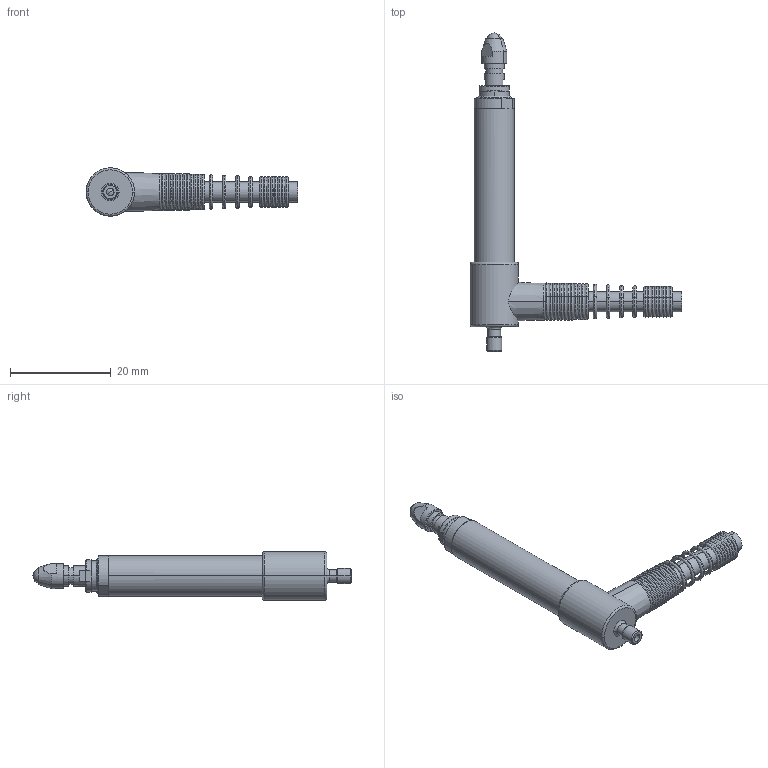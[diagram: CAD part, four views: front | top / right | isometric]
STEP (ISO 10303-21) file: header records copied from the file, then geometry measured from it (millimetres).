
FILE_DESCRIPTION (( 'STEP AP214' ), '1' );
FILE_NAME ('DP-S2VA_exterior.STEP', '2015-10-07T10:33:59', ( 'ysgoodman' ), ( '' ), 'SwSTEP 2.0', 'SolidWorks 2014', '' );
FILE_SCHEMA (( 'AUTOMOTIVE_DESIGN' ));
Length unit declared in the file: millimetre
Products named in the file (1): DP-S2VA_exterior
Bounding box: 42 x 63.05 x 9.6 mm (x, y, z)
Surface area: 3835.4 mm2 (no closed solid volume)
Topology: 0 solids, 39 shells, 208 faces, 492 edges, 300 vertices
Faces by surface type: torus 112, cylinder 48, plane 35, cone 11, sphere 2
Entity records: 8539 total; most frequent: DIRECTION 1254, CARTESIAN_POINT 1221, ORIENTED_EDGE 896, AXIS2_PLACEMENT_3D 578, EDGE_CURVE 487, CIRCLE 369, VERTEX_POINT 297, EDGE_LOOP 226
